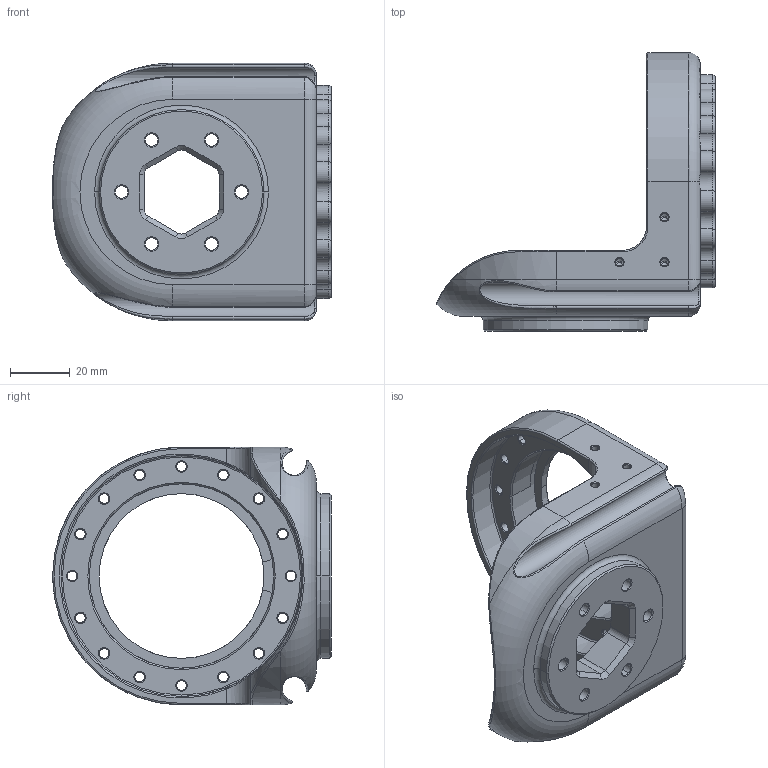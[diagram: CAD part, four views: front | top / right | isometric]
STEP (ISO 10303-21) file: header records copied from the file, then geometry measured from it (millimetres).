
FILE_DESCRIPTION((''),'2;1');
FILE_NAME('JXB-PR60-JIA','2019-12-03T',('Win10'),(''),'PRO/ENGINEER BY PARAMETRIC TECHNOLOGY CORPORATION, 2010280','PRO/ENGINEER BY PARAMETRIC TECHNOLOGY CORPORATION, 2010280','');
FILE_SCHEMA(('AUTOMOTIVE_DESIGN_CC2 { 1 2 10303 214 -1 1 5 2 }'));
Length unit declared in the file: millimetre
Products named in the file (1): JXB-PR60-JIA
Bounding box: 93.02 x 93 x 86 mm (x, y, z)
Volume: 104012.1 mm3; surface area: 39256.2 mm2
Topology: 1 solids, 1 shells, 498 faces, 1204 edges, 693 vertices
Faces by surface type: cylinder 190, cone 188, plane 58, torus 50, bspline 12
Entity records: 20177 total; most frequent: CARTESIAN_POINT 4903, DIRECTION 2710, ORIENTED_EDGE 2320, PRESENTATION_STYLE_ASSIGNMENT 1161, STYLED_ITEM 1161, CURVE_STYLE 1160, EDGE_CURVE 1160, AXIS2_PLACEMENT_3D 1131
